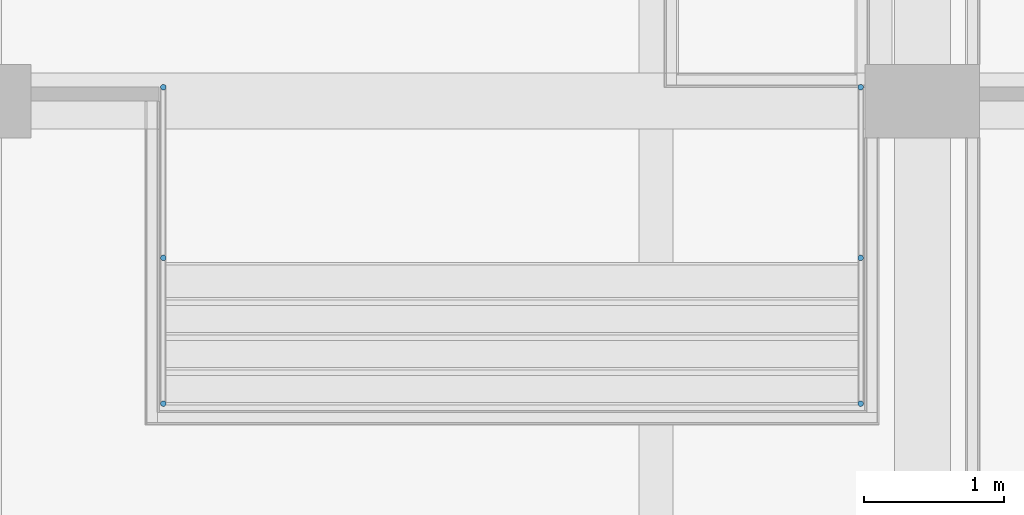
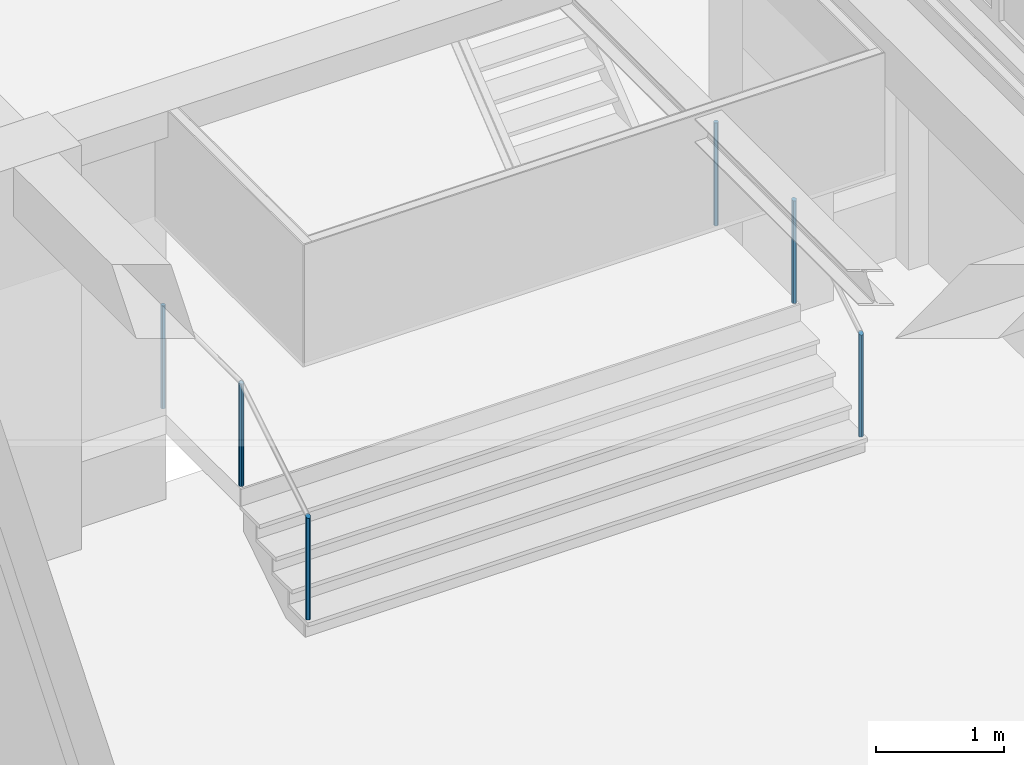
# One storey, part 70 of 135: 6 members, 2 elements without a shape of their own.
"""IFC2X3 building model written with IfcOpenShell, lengths in millimetres."""

from ifc_helpers import new_model, entity, si_unit, converted_unit, derived_unit, money_unit, direction, frame, origin_with_axes, place, context, subcontext, project, spatial, faceted_brep, material, type_object, element, aggregate, save


model = new_model("IFC2X3")

# Units and contexts
model_context = context("Model", 3, precision=0.01, world=origin_with_axes(), true_north=direction((0.0, 1.0)))
body_context = subcontext(model_context, "Body", "Model", "MODEL_VIEW")
ifc_project = project(units=[si_unit("LENGTHUNIT", "METRE", prefix="MILLI"), si_unit("AREAUNIT", "SQUARE_METRE"), si_unit("VOLUMEUNIT", "CUBIC_METRE"), converted_unit("PLANEANGLEUNIT", "DEGREE", entity("IfcPlaneAngleMeasure", 0.0174532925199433), si_unit("PLANEANGLEUNIT", "RADIAN"), dimensions=[0, 0, 0, 0, 0, 0, 0]), money_unit("EUR"), converted_unit("TIMEUNIT", "Year", entity("IfcTimeMeasure", 31557600.0), si_unit("TIMEUNIT", "SECOND"), dimensions=[0, 0, 1, 0, 0, 0, 0]), si_unit("MASSUNIT", "GRAM", prefix="KILO"), si_unit("THERMODYNAMICTEMPERATUREUNIT", "DEGREE_CELSIUS"), si_unit("LUMINOUSINTENSITYUNIT", "LUMEN"), si_unit("ENERGYUNIT", "JOULE", prefix="MEGA"), derived_unit("THERMALCONDUCTANCEUNIT", [(si_unit("POWERUNIT", "WATT"), 1), (si_unit("LENGTHUNIT", "METRE"), -1), (si_unit("THERMODYNAMICTEMPERATUREUNIT", "KELVIN"), -1)]), derived_unit("SPECIFICHEATCAPACITYUNIT", [(si_unit("ENERGYUNIT", "JOULE"), 1), (si_unit("MASSUNIT", "GRAM", prefix="KILO"), -1), (si_unit("THERMODYNAMICTEMPERATUREUNIT", "KELVIN"), -1)]), derived_unit("MASSDENSITYUNIT", [(si_unit("MASSUNIT", "GRAM", prefix="KILO"), 1), (si_unit("VOLUMEUNIT", "CUBIC_METRE"), -1)])], contexts=[model_context])

# Site, building, storey
site_placement = place(None, origin_with_axes())
site = spatial("IfcSite", under=ifc_project, at=site_placement, Name="Site", CompositionType="ELEMENT")
building_placement = place(site_placement, origin_with_axes())
building = spatial("IfcBuilding", under=site, at=building_placement, Name="Naam gebouw", CompositionType="ELEMENT")
storey_placement = place(building_placement, origin_with_axes())
storey = spatial("IfcBuildingStorey", under=building, at=storey_placement, Name="Begane grond N", CompositionType="ELEMENT", Elevation=0.0)

# Railing, members
railing_type = type_object("IfcRailingType", Name="Railing Type", PredefinedType="NOTDEFINED")
railing_1_placement = place(storey_placement, frame((28195.99999999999, 47067.9124162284, 160.0), z_axis=(0.0, 0.0, 1.0), x_axis=(-1.0, 0.0, 0.0)))
railing_1 = element("IfcRailing", 1, at=railing_1_placement, inside=storey, type_object=railing_type, Name="_Reling-x", PredefinedType="NOTDEFINED")
ifc_material = material(Name="Metaal - RVS")
member_type = type_object("IfcMemberType", Name="IfcMember", PredefinedType="POST")
member_1_placement = place(railing_1_placement, frame((30.00000000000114, -49.99999999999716, 0.0), z_axis=(0.0, 0.0, 1.0), x_axis=(-1.0, 0.0, 0.0)))
member_1 = element("IfcMember", 2, at=member_1_placement, type_object=member_type, material=ifc_material, Name="_Hoofdbaluster-x", ObjectType="POST", context=body_context, shape_type="Brep", body=[
    faceted_brep([(0.0, -20.0, 0.0), (0.0, -20.0, 967.6923076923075), (-3.472963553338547, -19.69615506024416, 967.8792891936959), (-3.472963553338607, -19.69615506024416, 0.0), (3.472963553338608, -19.69615506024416, 0.0), (3.472963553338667, -19.69615506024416, 967.8792891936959), (6.840402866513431, -18.79385241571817, 968.4345523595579), (10.00000000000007, -17.32050807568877, 969.341225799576), (12.85575219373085, -15.32088886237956, 970.571760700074), (15.32088886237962, -12.85575219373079, 972.0887678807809), (17.32050807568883, -10.0, 973.8461538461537), (18.79385241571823, -6.84040286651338, 975.7905213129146), (19.69615506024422, -3.4729635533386, 977.8627916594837), (20.00000000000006, 0.0, 979.9999999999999), (19.69615506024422, 3.472963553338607, 982.1372083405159), (18.79385241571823, 6.840402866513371, 984.209478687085), (17.32050807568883, 10.00000000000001, 986.1538461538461), (15.32088886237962, 12.85575219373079, 987.9112321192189), (12.85575219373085, 15.32088886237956, 989.4282392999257), (10.00000000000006, 17.32050807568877, 990.6587742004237), (6.840402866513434, 18.79385241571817, 991.5654476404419), (3.47296355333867, 19.69615506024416, 992.1207108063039), (0.0, 20.0, 992.3076923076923), (-3.472963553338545, 19.69615506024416, 992.1207108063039), (-6.840402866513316, 18.79385241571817, 991.5654476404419), (-9.999999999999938, 17.32050807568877, 990.6587742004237), (-12.85575219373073, 15.32088886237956, 989.4282392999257), (-15.3208888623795, 12.85575219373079, 987.9112321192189), (-17.32050807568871, 9.999999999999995, 986.1538461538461), (-18.79385241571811, 6.840402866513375, 984.209478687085), (-19.6961550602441, 3.472963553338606, 982.1372083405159), (-19.99999999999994, 0.0, 979.9999999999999), (-19.6961550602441, -3.472963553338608, 977.8627916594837), (-18.79385241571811, -6.840402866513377, 975.7905213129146), (-17.32050807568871, -10.0, 973.8461538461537), (-15.3208888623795, -12.85575219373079, 972.0887678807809), (-12.85575219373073, -15.32088886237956, 970.571760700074), (-9.99999999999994, -17.32050807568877, 969.341225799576), (-6.840402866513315, -18.79385241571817, 968.4345523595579), (-6.840402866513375, -18.79385241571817, 0.0), (-9.999999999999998, -17.32050807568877, 0.0), (-12.85575219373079, -15.32088886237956, 0.0), (-15.32088886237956, -12.85575219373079, 0.0), (-17.32050807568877, -10.0, 0.0), (-18.79385241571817, -6.840402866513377, 0.0), (-19.69615506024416, -3.472963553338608, 0.0), (-20.0, 0.0, 0.0), (-19.69615506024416, 3.472963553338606, 0.0), (-18.79385241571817, 6.840402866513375, 0.0), (-17.32050807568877, 9.999999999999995, 0.0), (-15.32088886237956, 12.85575219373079, 0.0), (-12.85575219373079, 15.32088886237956, 0.0), (-9.999999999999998, 17.32050807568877, 0.0), (-6.840402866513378, 18.79385241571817, 0.0), (-3.472963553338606, 19.69615506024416, 0.0), (0.0, 20.0, 0.0), (3.47296355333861, 19.69615506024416, 0.0), (6.840402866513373, 18.79385241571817, 0.0), (10.0, 17.32050807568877, 0.0), (12.85575219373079, 15.32088886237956, 0.0), (15.32088886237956, 12.85575219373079, 0.0), (17.32050807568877, 10.00000000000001, 0.0), (18.79385241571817, 6.840402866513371, 0.0), (19.69615506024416, 3.472963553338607, 0.0), (20.0, 0.0, 0.0), (19.69615506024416, -3.4729635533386, 0.0), (18.79385241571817, -6.84040286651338, 0.0), (17.32050807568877, -10.0, 0.0), (15.32088886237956, -12.85575219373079, 0.0), (12.85575219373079, -15.32088886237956, 0.0), (10.00000000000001, -17.32050807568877, 0.0), (6.840402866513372, -18.79385241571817, 0.0)], [[[0, 1, 2, 3]], [[4, 5, 1, 0]], [[1, 5, 6, 7, 8, 9, 10, 11, 12, 13, 14, 15, 16, 17, 18, 19, 20, 21, 22, 23, 24, 25, 26, 27, 28, 29, 30, 31, 32, 33, 34, 35, 36, 37, 38, 2]], [[3, 2, 38, 39]], [[0, 3, 39, 40, 41, 42, 43, 44, 45, 46, 47, 48, 49, 50, 51, 52, 53, 54, 55, 56, 57, 58, 59, 60, 61, 62, 63, 64, 65, 66, 67, 68, 69, 70, 71, 4]], [[71, 6, 5, 4]], [[70, 7, 6, 71]], [[69, 8, 7, 70]], [[68, 9, 8, 69]], [[67, 10, 9, 68]], [[66, 11, 10, 67]], [[65, 12, 11, 66]], [[64, 13, 12, 65]], [[63, 14, 13, 64]], [[62, 15, 14, 63]], [[61, 16, 15, 62]], [[60, 17, 16, 61]], [[59, 18, 17, 60]], [[58, 19, 18, 59]], [[57, 20, 19, 58]], [[56, 21, 20, 57]], [[55, 22, 21, 56]], [[54, 23, 22, 55]], [[53, 24, 23, 54]], [[52, 25, 24, 53]], [[51, 26, 25, 52]], [[50, 27, 26, 51]], [[49, 28, 27, 50]], [[48, 29, 28, 49]], [[47, 30, 29, 48]], [[46, 31, 30, 47]], [[45, 32, 31, 46]], [[44, 33, 32, 45]], [[43, 34, 33, 44]], [[42, 35, 34, 43]], [[41, 36, 35, 42]], [[40, 37, 36, 41]], [[39, 38, 37, 40]]]),
])
member_2_placement = place(railing_1_placement, frame((30.00000000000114, -1089.999999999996, 640.0), z_axis=(0.0, 0.0, 1.0), x_axis=(-1.0, 0.0, 0.0)))
member_2 = element("IfcMember", 3, at=member_2_placement, type_object=member_type, material=ifc_material, Name="_Hoofdbaluster-x", ObjectType="POST", context=body_context, shape_type="Brep", body=[
    faceted_brep([(0.0, -20.0, 0.0), (0.0, -20.0, 974.3391561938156), (-3.472963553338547, -19.69615506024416, 974.4251571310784), (-3.472963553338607, -19.69615506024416, 0.0), (3.472963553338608, -19.69615506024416, 0.0), (3.472963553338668, -19.69615506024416, 974.4251571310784), (6.840402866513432, -18.79385241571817, 974.6805468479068), (10.00000000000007, -17.32050807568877, 975.0975654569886), (12.85575219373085, -15.32088886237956, 975.663542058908), (15.32088886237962, -12.85575219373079, 976.3612797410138), (17.32050807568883, -10.0, 977.1695780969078), (18.79385241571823, -6.84040286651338, 978.0638773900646), (19.69615506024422, -3.4729635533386, 979.0170047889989), (20.00000000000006, 0.0, 980.0), (19.69615506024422, 3.472963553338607, 980.982995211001), (18.79385241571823, 6.840402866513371, 981.9361226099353), (17.32050807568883, 10.00000000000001, 982.8304219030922), (15.32088886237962, 12.85575219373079, 983.6387202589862), (12.85575219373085, 15.32088886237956, 984.336457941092), (10.00000000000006, 17.32050807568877, 984.9024345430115), (6.840402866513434, 18.79385241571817, 985.3194531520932), (3.47296355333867, 19.69615506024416, 985.5748428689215), (0.0, 20.0, 985.6608438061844), (-3.472963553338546, 19.69615506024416, 985.5748428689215), (-6.840402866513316, 18.79385241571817, 985.3194531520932), (-9.999999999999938, 17.32050807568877, 984.9024345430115), (-12.85575219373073, 15.32088886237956, 984.336457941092), (-15.3208888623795, 12.85575219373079, 983.6387202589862), (-17.32050807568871, 9.999999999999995, 982.8304219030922), (-18.79385241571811, 6.840402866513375, 981.9361226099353), (-19.6961550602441, 3.472963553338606, 980.982995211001), (-19.99999999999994, 0.0, 980.0), (-19.6961550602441, -3.472963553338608, 979.0170047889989), (-18.79385241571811, -6.840402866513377, 978.0638773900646), (-17.32050807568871, -10.0, 977.1695780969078), (-15.3208888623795, -12.85575219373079, 976.3612797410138), (-12.85575219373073, -15.32088886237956, 975.663542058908), (-9.99999999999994, -17.32050807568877, 975.0975654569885), (-6.840402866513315, -18.79385241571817, 974.6805468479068), (-6.840402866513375, -18.79385241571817, 0.0), (-9.999999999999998, -17.32050807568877, 0.0), (-12.85575219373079, -15.32088886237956, 0.0), (-15.32088886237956, -12.85575219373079, 0.0), (-17.32050807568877, -10.0, 0.0), (-18.79385241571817, -6.840402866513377, 0.0), (-19.69615506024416, -3.472963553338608, 0.0), (-20.0, 0.0, 0.0), (-19.69615506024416, 3.472963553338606, 0.0), (-18.79385241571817, 6.840402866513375, 0.0), (-17.32050807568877, 9.999999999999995, 0.0), (-15.32088886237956, 12.85575219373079, 0.0), (-12.85575219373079, 15.32088886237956, 0.0), (-9.999999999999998, 17.32050807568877, 0.0), (-6.840402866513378, 18.79385241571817, 0.0), (-3.472963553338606, 19.69615506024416, 0.0), (0.0, 20.0, 0.0), (3.47296355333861, 19.69615506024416, 0.0), (6.840402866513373, 18.79385241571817, 0.0), (10.0, 17.32050807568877, 0.0), (12.85575219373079, 15.32088886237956, 0.0), (15.32088886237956, 12.85575219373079, 0.0), (17.32050807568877, 10.00000000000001, 0.0), (18.79385241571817, 6.840402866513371, 0.0), (19.69615506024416, 3.472963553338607, 0.0), (20.0, 0.0, 0.0), (19.69615506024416, -3.4729635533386, 0.0), (18.79385241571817, -6.84040286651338, 0.0), (17.32050807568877, -10.0, 0.0), (15.32088886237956, -12.85575219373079, 0.0), (12.85575219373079, -15.32088886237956, 0.0), (10.00000000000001, -17.32050807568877, 0.0), (6.840402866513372, -18.79385241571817, 0.0)], [[[0, 1, 2, 3]], [[4, 5, 1, 0]], [[1, 5, 6, 7, 8, 9, 10, 11, 12, 13, 14, 15, 16, 17, 18, 19, 20, 21, 22, 23, 24, 25, 26, 27, 28, 29, 30, 31, 32, 33, 34, 35, 36, 37, 38, 2]], [[3, 2, 38, 39]], [[0, 3, 39, 40, 41, 42, 43, 44, 45, 46, 47, 48, 49, 50, 51, 52, 53, 54, 55, 56, 57, 58, 59, 60, 61, 62, 63, 64, 65, 66, 67, 68, 69, 70, 71, 4]], [[71, 6, 5, 4]], [[70, 7, 6, 71]], [[69, 8, 7, 70]], [[68, 9, 8, 69]], [[67, 10, 9, 68]], [[66, 11, 10, 67]], [[65, 12, 11, 66]], [[64, 13, 12, 65]], [[63, 14, 13, 64]], [[62, 15, 14, 63]], [[61, 16, 15, 62]], [[60, 17, 16, 61]], [[59, 18, 17, 60]], [[58, 19, 18, 59]], [[57, 20, 19, 58]], [[56, 21, 20, 57]], [[55, 22, 21, 56]], [[54, 23, 22, 55]], [[53, 24, 23, 54]], [[52, 25, 24, 53]], [[51, 26, 25, 52]], [[50, 27, 26, 51]], [[49, 28, 27, 50]], [[48, 29, 28, 49]], [[47, 30, 29, 48]], [[46, 31, 30, 47]], [[45, 32, 31, 46]], [[44, 33, 32, 45]], [[43, 34, 33, 44]], [[42, 35, 34, 43]], [[41, 36, 35, 42]], [[40, 37, 36, 41]], [[39, 38, 37, 40]]]),
])
member_3_placement = place(railing_1_placement, frame((30.00000000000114, -2308.000005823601, 640.0), z_axis=(0.0, 0.0, 1.0), x_axis=(-1.0, 0.0, 0.0)))
member_3 = element("IfcMember", 4, at=member_3_placement, type_object=member_type, material=ifc_material, Name="_Hoofdbaluster-x", ObjectType="POST", context=body_context, shape_type="Brep", body=[
    faceted_brep([(0.0, -20.0, 0.0), (0.0, -20.0, 980.0), (-3.472963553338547, -19.69615506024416, 980.0), (-3.472963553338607, -19.69615506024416, 0.0), (3.472963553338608, -19.69615506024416, 0.0), (3.472963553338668, -19.69615506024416, 980.0), (6.840402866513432, -18.79385241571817, 980.0), (10.00000000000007, -17.32050807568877, 980.0), (12.85575219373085, -15.32088886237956, 980.0), (15.32088886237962, -12.85575219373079, 980.0), (17.32050807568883, -10.0, 980.0), (18.79385241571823, -6.84040286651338, 980.0), (19.69615506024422, -3.4729635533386, 980.0), (20.00000000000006, 0.0, 980.0), (19.69615506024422, 3.472963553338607, 980.0), (18.79385241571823, 6.840402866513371, 980.0), (17.32050807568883, 10.00000000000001, 980.0), (15.32088886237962, 12.85575219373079, 980.0), (12.85575219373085, 15.32088886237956, 980.0), (10.00000000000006, 17.32050807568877, 980.0), (6.840402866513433, 18.79385241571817, 980.0), (3.47296355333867, 19.69615506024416, 980.0), (0.0, 20.0, 980.0), (-3.472963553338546, 19.69615506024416, 980.0), (-6.840402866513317, 18.79385241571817, 980.0), (-9.999999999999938, 17.32050807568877, 980.0), (-12.85575219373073, 15.32088886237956, 980.0), (-15.3208888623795, 12.85575219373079, 980.0), (-17.32050807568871, 9.999999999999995, 980.0), (-18.79385241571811, 6.840402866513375, 980.0), (-19.6961550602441, 3.472963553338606, 980.0), (-19.99999999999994, 0.0, 980.0), (-19.6961550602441, -3.472963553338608, 980.0), (-18.79385241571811, -6.840402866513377, 980.0), (-17.32050807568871, -10.0, 980.0), (-15.3208888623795, -12.85575219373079, 980.0), (-12.85575219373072, -15.32088886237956, 980.0), (-9.999999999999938, -17.32050807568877, 980.0), (-6.840402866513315, -18.79385241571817, 980.0), (-6.840402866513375, -18.79385241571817, 0.0), (-9.999999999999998, -17.32050807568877, 0.0), (-12.85575219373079, -15.32088886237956, 0.0), (-15.32088886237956, -12.85575219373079, 0.0), (-17.32050807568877, -10.0, 0.0), (-18.79385241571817, -6.840402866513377, 0.0), (-19.69615506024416, -3.472963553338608, 0.0), (-20.0, 0.0, 0.0), (-19.69615506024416, 3.472963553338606, 0.0), (-18.79385241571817, 6.840402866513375, 0.0), (-17.32050807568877, 9.999999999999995, 0.0), (-15.32088886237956, 12.85575219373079, 0.0), (-12.85575219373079, 15.32088886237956, 0.0), (-9.999999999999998, 17.32050807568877, 0.0), (-6.840402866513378, 18.79385241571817, 0.0), (-3.472963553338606, 19.69615506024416, 0.0), (0.0, 20.0, 0.0), (3.47296355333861, 19.69615506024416, 0.0), (6.840402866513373, 18.79385241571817, 0.0), (10.0, 17.32050807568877, 0.0), (12.85575219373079, 15.32088886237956, 0.0), (15.32088886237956, 12.85575219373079, 0.0), (17.32050807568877, 10.00000000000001, 0.0), (18.79385241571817, 6.840402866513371, 0.0), (19.69615506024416, 3.472963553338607, 0.0), (20.0, 0.0, 0.0), (19.69615506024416, -3.4729635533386, 0.0), (18.79385241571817, -6.84040286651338, 0.0), (17.32050807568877, -10.0, 0.0), (15.32088886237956, -12.85575219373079, 0.0), (12.85575219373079, -15.32088886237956, 0.0), (10.00000000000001, -17.32050807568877, 0.0), (6.840402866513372, -18.79385241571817, 0.0)], [[[0, 1, 2, 3]], [[4, 5, 1, 0]], [[1, 5, 6, 7, 8, 9, 10, 11, 12, 13, 14, 15, 16, 17, 18, 19, 20, 21, 22, 23, 24, 25, 26, 27, 28, 29, 30, 31, 32, 33, 34, 35, 36, 37, 38, 2]], [[3, 2, 38, 39]], [[0, 3, 39, 40, 41, 42, 43, 44, 45, 46, 47, 48, 49, 50, 51, 52, 53, 54, 55, 56, 57, 58, 59, 60, 61, 62, 63, 64, 65, 66, 67, 68, 69, 70, 71, 4]], [[71, 6, 5, 4]], [[70, 7, 6, 71]], [[69, 8, 7, 70]], [[68, 9, 8, 69]], [[67, 10, 9, 68]], [[66, 11, 10, 67]], [[65, 12, 11, 66]], [[64, 13, 12, 65]], [[63, 14, 13, 64]], [[62, 15, 14, 63]], [[61, 16, 15, 62]], [[60, 17, 16, 61]], [[59, 18, 17, 60]], [[58, 19, 18, 59]], [[57, 20, 19, 58]], [[56, 21, 20, 57]], [[55, 22, 21, 56]], [[54, 23, 22, 55]], [[53, 24, 23, 54]], [[52, 25, 24, 53]], [[51, 26, 25, 52]], [[50, 27, 26, 51]], [[49, 28, 27, 50]], [[48, 29, 28, 49]], [[47, 30, 29, 48]], [[46, 31, 30, 47]], [[45, 32, 31, 46]], [[44, 33, 32, 45]], [[43, 34, 33, 44]], [[42, 35, 34, 43]], [[41, 36, 35, 42]], [[40, 37, 36, 41]], [[39, 38, 37, 40]]]),
])
aggregate(railing_1, [member_1, member_2, member_3])

railing_2_placement = place(storey_placement, frame((23160.00002619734, 47067.9124162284, 160.0), z_axis=(0.0, 0.0, 1.0), x_axis=(1.0, 0.0, 0.0)))
railing_2 = element("IfcRailing", 5, at=railing_2_placement, inside=storey, type_object=railing_type, Name="_Reling-x", PredefinedType="NOTDEFINED")
member_4_placement = place(railing_2_placement, frame((30.00000000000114, 1089.999999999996, 640.0), z_axis=(0.0, 0.0, 1.0), x_axis=(1.0, 0.0, 0.0)))
member_4 = element("IfcMember", 6, at=member_4_placement, type_object=member_type, material=ifc_material, Name="_Hoofdbaluster-x", ObjectType="POST", context=body_context, shape_type="Brep", body=[
    faceted_brep([(0.0, -20.0, 0.0), (3.472963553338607, -19.69615506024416, 0.0), (3.472963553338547, -19.69615506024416, 974.4251571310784), (0.0, -20.0, 974.3391561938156), (-3.472963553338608, -19.69615506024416, 0.0), (-6.840402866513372, -18.79385241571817, 0.0), (-10.00000000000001, -17.32050807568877, 0.0), (-12.85575219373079, -15.32088886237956, 0.0), (-15.32088886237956, -12.85575219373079, 0.0), (-17.32050807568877, -10.0, 0.0), (-18.79385241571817, -6.84040286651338, 0.0), (-19.69615506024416, -3.4729635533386, 0.0), (-20.0, 0.0, 0.0), (-19.69615506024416, 3.472963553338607, 0.0), (-18.79385241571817, 6.840402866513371, 0.0), (-17.32050807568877, 10.00000000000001, 0.0), (-15.32088886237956, 12.85575219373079, 0.0), (-12.85575219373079, 15.32088886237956, 0.0), (-10.0, 17.32050807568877, 0.0), (-6.840402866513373, 18.79385241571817, 0.0), (-3.47296355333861, 19.69615506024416, 0.0), (0.0, 20.0, 0.0), (3.472963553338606, 19.69615506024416, 0.0), (6.840402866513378, 18.79385241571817, 0.0), (9.999999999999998, 17.32050807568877, 0.0), (12.85575219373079, 15.32088886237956, 0.0), (15.32088886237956, 12.85575219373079, 0.0), (17.32050807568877, 9.999999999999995, 0.0), (18.79385241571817, 6.840402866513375, 0.0), (19.69615506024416, 3.472963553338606, 0.0), (20.0, 0.0, 0.0), (19.69615506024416, -3.472963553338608, 0.0), (18.79385241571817, -6.840402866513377, 0.0), (17.32050807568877, -10.0, 0.0), (15.32088886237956, -12.85575219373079, 0.0), (12.85575219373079, -15.32088886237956, 0.0), (9.999999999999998, -17.32050807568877, 0.0), (6.840402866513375, -18.79385241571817, 0.0), (6.840402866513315, -18.79385241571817, 974.6805468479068), (9.99999999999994, -17.32050807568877, 975.0975654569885), (12.85575219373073, -15.32088886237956, 975.663542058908), (15.3208888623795, -12.85575219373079, 976.3612797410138), (17.32050807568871, -10.0, 977.1695780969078), (18.79385241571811, -6.840402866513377, 978.0638773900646), (19.6961550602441, -3.472963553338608, 979.0170047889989), (19.99999999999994, 0.0, 980.0), (19.6961550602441, 3.472963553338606, 980.982995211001), (18.79385241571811, 6.840402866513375, 981.9361226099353), (17.32050807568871, 9.999999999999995, 982.8304219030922), (15.3208888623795, 12.85575219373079, 983.6387202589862), (12.85575219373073, 15.32088886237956, 984.336457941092), (9.999999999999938, 17.32050807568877, 984.9024345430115), (6.840402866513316, 18.79385241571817, 985.3194531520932), (3.472963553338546, 19.69615506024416, 985.5748428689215), (0.0, 20.0, 985.6608438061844), (-3.47296355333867, 19.69615506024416, 985.5748428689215), (-6.840402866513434, 18.79385241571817, 985.3194531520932), (-10.00000000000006, 17.32050807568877, 984.9024345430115), (-12.85575219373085, 15.32088886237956, 984.336457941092), (-15.32088886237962, 12.85575219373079, 983.6387202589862), (-17.32050807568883, 10.00000000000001, 982.8304219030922), (-18.79385241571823, 6.840402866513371, 981.9361226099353), (-19.69615506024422, 3.472963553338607, 980.982995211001), (-20.00000000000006, 0.0, 980.0), (-19.69615506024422, -3.4729635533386, 979.0170047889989), (-18.79385241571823, -6.84040286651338, 978.0638773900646), (-17.32050807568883, -10.0, 977.1695780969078), (-15.32088886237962, -12.85575219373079, 976.3612797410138), (-12.85575219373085, -15.32088886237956, 975.663542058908), (-10.00000000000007, -17.32050807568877, 975.0975654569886), (-6.840402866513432, -18.79385241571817, 974.6805468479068), (-3.472963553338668, -19.69615506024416, 974.4251571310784)], [[[0, 1, 2, 3]], [[0, 4, 5, 6, 7, 8, 9, 10, 11, 12, 13, 14, 15, 16, 17, 18, 19, 20, 21, 22, 23, 24, 25, 26, 27, 28, 29, 30, 31, 32, 33, 34, 35, 36, 37, 1]], [[1, 37, 38, 2]], [[3, 2, 38, 39, 40, 41, 42, 43, 44, 45, 46, 47, 48, 49, 50, 51, 52, 53, 54, 55, 56, 57, 58, 59, 60, 61, 62, 63, 64, 65, 66, 67, 68, 69, 70, 71]], [[4, 0, 3, 71]], [[5, 4, 71, 70]], [[6, 5, 70, 69]], [[7, 6, 69, 68]], [[8, 7, 68, 67]], [[9, 8, 67, 66]], [[10, 9, 66, 65]], [[11, 10, 65, 64]], [[12, 11, 64, 63]], [[13, 12, 63, 62]], [[14, 13, 62, 61]], [[15, 14, 61, 60]], [[16, 15, 60, 59]], [[17, 16, 59, 58]], [[18, 17, 58, 57]], [[19, 18, 57, 56]], [[20, 19, 56, 55]], [[21, 20, 55, 54]], [[22, 21, 54, 53]], [[23, 22, 53, 52]], [[24, 23, 52, 51]], [[25, 24, 51, 50]], [[26, 25, 50, 49]], [[27, 26, 49, 48]], [[28, 27, 48, 47]], [[29, 28, 47, 46]], [[30, 29, 46, 45]], [[31, 30, 45, 44]], [[32, 31, 44, 43]], [[33, 32, 43, 42]], [[34, 33, 42, 41]], [[35, 34, 41, 40]], [[36, 35, 40, 39]], [[37, 36, 39, 38]]]),
])
member_5_placement = place(railing_2_placement, frame((30.00000000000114, 2308.000005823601, 640.0), z_axis=(0.0, 0.0, 1.0), x_axis=(1.0, 0.0, 0.0)))
member_5 = element("IfcMember", 7, at=member_5_placement, type_object=member_type, material=ifc_material, Name="_Hoofdbaluster-x", ObjectType="POST", context=body_context, shape_type="Brep", body=[
    faceted_brep([(0.0, -20.0, 0.0), (3.472963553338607, -19.69615506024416, 0.0), (3.472963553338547, -19.69615506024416, 980.0), (0.0, -20.0, 980.0), (-3.472963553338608, -19.69615506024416, 0.0), (-6.840402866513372, -18.79385241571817, 0.0), (-10.00000000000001, -17.32050807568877, 0.0), (-12.85575219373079, -15.32088886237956, 0.0), (-15.32088886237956, -12.85575219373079, 0.0), (-17.32050807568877, -10.0, 0.0), (-18.79385241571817, -6.84040286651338, 0.0), (-19.69615506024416, -3.4729635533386, 0.0), (-20.0, 0.0, 0.0), (-19.69615506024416, 3.472963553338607, 0.0), (-18.79385241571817, 6.840402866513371, 0.0), (-17.32050807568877, 10.00000000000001, 0.0), (-15.32088886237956, 12.85575219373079, 0.0), (-12.85575219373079, 15.32088886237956, 0.0), (-10.0, 17.32050807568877, 0.0), (-6.840402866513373, 18.79385241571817, 0.0), (-3.47296355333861, 19.69615506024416, 0.0), (0.0, 20.0, 0.0), (3.472963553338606, 19.69615506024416, 0.0), (6.840402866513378, 18.79385241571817, 0.0), (9.999999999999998, 17.32050807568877, 0.0), (12.85575219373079, 15.32088886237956, 0.0), (15.32088886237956, 12.85575219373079, 0.0), (17.32050807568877, 9.999999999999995, 0.0), (18.79385241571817, 6.840402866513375, 0.0), (19.69615506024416, 3.472963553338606, 0.0), (20.0, 0.0, 0.0), (19.69615506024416, -3.472963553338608, 0.0), (18.79385241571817, -6.840402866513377, 0.0), (17.32050807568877, -10.0, 0.0), (15.32088886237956, -12.85575219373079, 0.0), (12.85575219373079, -15.32088886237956, 0.0), (9.999999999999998, -17.32050807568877, 0.0), (6.840402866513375, -18.79385241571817, 0.0), (6.840402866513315, -18.79385241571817, 980.0), (9.999999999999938, -17.32050807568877, 980.0), (12.85575219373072, -15.32088886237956, 980.0), (15.3208888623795, -12.85575219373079, 980.0), (17.32050807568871, -10.0, 980.0), (18.79385241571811, -6.840402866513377, 980.0), (19.6961550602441, -3.472963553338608, 980.0), (19.99999999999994, 0.0, 980.0), (19.6961550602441, 3.472963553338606, 980.0), (18.79385241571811, 6.840402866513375, 980.0), (17.32050807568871, 9.999999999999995, 980.0), (15.3208888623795, 12.85575219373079, 980.0), (12.85575219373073, 15.32088886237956, 980.0), (9.999999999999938, 17.32050807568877, 980.0), (6.840402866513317, 18.79385241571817, 980.0), (3.472963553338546, 19.69615506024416, 980.0), (0.0, 20.0, 980.0), (-3.47296355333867, 19.69615506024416, 980.0), (-6.840402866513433, 18.79385241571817, 980.0), (-10.00000000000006, 17.32050807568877, 980.0), (-12.85575219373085, 15.32088886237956, 980.0), (-15.32088886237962, 12.85575219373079, 980.0), (-17.32050807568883, 10.00000000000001, 980.0), (-18.79385241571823, 6.840402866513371, 980.0), (-19.69615506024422, 3.472963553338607, 980.0), (-20.00000000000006, 0.0, 980.0), (-19.69615506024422, -3.4729635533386, 980.0), (-18.79385241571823, -6.84040286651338, 980.0), (-17.32050807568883, -10.0, 980.0), (-15.32088886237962, -12.85575219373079, 980.0), (-12.85575219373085, -15.32088886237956, 980.0), (-10.00000000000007, -17.32050807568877, 980.0), (-6.840402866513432, -18.79385241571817, 980.0), (-3.472963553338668, -19.69615506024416, 980.0)], [[[0, 1, 2, 3]], [[0, 4, 5, 6, 7, 8, 9, 10, 11, 12, 13, 14, 15, 16, 17, 18, 19, 20, 21, 22, 23, 24, 25, 26, 27, 28, 29, 30, 31, 32, 33, 34, 35, 36, 37, 1]], [[1, 37, 38, 2]], [[3, 2, 38, 39, 40, 41, 42, 43, 44, 45, 46, 47, 48, 49, 50, 51, 52, 53, 54, 55, 56, 57, 58, 59, 60, 61, 62, 63, 64, 65, 66, 67, 68, 69, 70, 71]], [[4, 0, 3, 71]], [[5, 4, 71, 70]], [[6, 5, 70, 69]], [[7, 6, 69, 68]], [[8, 7, 68, 67]], [[9, 8, 67, 66]], [[10, 9, 66, 65]], [[11, 10, 65, 64]], [[12, 11, 64, 63]], [[13, 12, 63, 62]], [[14, 13, 62, 61]], [[15, 14, 61, 60]], [[16, 15, 60, 59]], [[17, 16, 59, 58]], [[18, 17, 58, 57]], [[19, 18, 57, 56]], [[20, 19, 56, 55]], [[21, 20, 55, 54]], [[22, 21, 54, 53]], [[23, 22, 53, 52]], [[24, 23, 52, 51]], [[25, 24, 51, 50]], [[26, 25, 50, 49]], [[27, 26, 49, 48]], [[28, 27, 48, 47]], [[29, 28, 47, 46]], [[30, 29, 46, 45]], [[31, 30, 45, 44]], [[32, 31, 44, 43]], [[33, 32, 43, 42]], [[34, 33, 42, 41]], [[35, 34, 41, 40]], [[36, 35, 40, 39]], [[37, 36, 39, 38]]]),
])
member_6_placement = place(railing_2_placement, frame((30.00000000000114, 49.99999999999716, 0.0), z_axis=(0.0, 0.0, 1.0), x_axis=(1.0, 0.0, 0.0)))
member_6 = element("IfcMember", 8, at=member_6_placement, type_object=member_type, material=ifc_material, Name="_Hoofdbaluster-x", ObjectType="POST", context=body_context, shape_type="Brep", body=[
    faceted_brep([(0.0, -20.0, 0.0), (3.472963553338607, -19.69615506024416, 0.0), (3.472963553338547, -19.69615506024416, 967.8792891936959), (0.0, -20.0, 967.6923076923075), (-3.472963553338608, -19.69615506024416, 0.0), (-6.840402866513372, -18.79385241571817, 0.0), (-10.00000000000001, -17.32050807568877, 0.0), (-12.85575219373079, -15.32088886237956, 0.0), (-15.32088886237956, -12.85575219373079, 0.0), (-17.32050807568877, -10.0, 0.0), (-18.79385241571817, -6.84040286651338, 0.0), (-19.69615506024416, -3.4729635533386, 0.0), (-20.0, 0.0, 0.0), (-19.69615506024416, 3.472963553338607, 0.0), (-18.79385241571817, 6.840402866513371, 0.0), (-17.32050807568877, 10.00000000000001, 0.0), (-15.32088886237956, 12.85575219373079, 0.0), (-12.85575219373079, 15.32088886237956, 0.0), (-10.0, 17.32050807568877, 0.0), (-6.840402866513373, 18.79385241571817, 0.0), (-3.47296355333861, 19.69615506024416, 0.0), (0.0, 20.0, 0.0), (3.472963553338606, 19.69615506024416, 0.0), (6.840402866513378, 18.79385241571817, 0.0), (9.999999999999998, 17.32050807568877, 0.0), (12.85575219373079, 15.32088886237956, 0.0), (15.32088886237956, 12.85575219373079, 0.0), (17.32050807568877, 9.999999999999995, 0.0), (18.79385241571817, 6.840402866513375, 0.0), (19.69615506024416, 3.472963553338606, 0.0), (20.0, 0.0, 0.0), (19.69615506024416, -3.472963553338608, 0.0), (18.79385241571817, -6.840402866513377, 0.0), (17.32050807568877, -10.0, 0.0), (15.32088886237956, -12.85575219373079, 0.0), (12.85575219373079, -15.32088886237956, 0.0), (9.999999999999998, -17.32050807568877, 0.0), (6.840402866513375, -18.79385241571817, 0.0), (6.840402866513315, -18.79385241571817, 968.4345523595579), (9.99999999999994, -17.32050807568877, 969.341225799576), (12.85575219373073, -15.32088886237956, 970.571760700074), (15.3208888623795, -12.85575219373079, 972.0887678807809), (17.32050807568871, -10.0, 973.8461538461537), (18.79385241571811, -6.840402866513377, 975.7905213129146), (19.6961550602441, -3.472963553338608, 977.8627916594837), (19.99999999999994, 0.0, 979.9999999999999), (19.6961550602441, 3.472963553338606, 982.1372083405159), (18.79385241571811, 6.840402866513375, 984.209478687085), (17.32050807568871, 9.999999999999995, 986.1538461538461), (15.3208888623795, 12.85575219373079, 987.9112321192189), (12.85575219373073, 15.32088886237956, 989.4282392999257), (9.999999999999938, 17.32050807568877, 990.6587742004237), (6.840402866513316, 18.79385241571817, 991.5654476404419), (3.472963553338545, 19.69615506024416, 992.1207108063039), (0.0, 20.0, 992.3076923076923), (-3.47296355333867, 19.69615506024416, 992.1207108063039), (-6.840402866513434, 18.79385241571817, 991.5654476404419), (-10.00000000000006, 17.32050807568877, 990.6587742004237), (-12.85575219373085, 15.32088886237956, 989.4282392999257), (-15.32088886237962, 12.85575219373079, 987.9112321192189), (-17.32050807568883, 10.00000000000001, 986.1538461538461), (-18.79385241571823, 6.840402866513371, 984.209478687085), (-19.69615506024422, 3.472963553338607, 982.1372083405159), (-20.00000000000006, 0.0, 979.9999999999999), (-19.69615506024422, -3.4729635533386, 977.8627916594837), (-18.79385241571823, -6.84040286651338, 975.7905213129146), (-17.32050807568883, -10.0, 973.8461538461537), (-15.32088886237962, -12.85575219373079, 972.0887678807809), (-12.85575219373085, -15.32088886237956, 970.571760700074), (-10.00000000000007, -17.32050807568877, 969.341225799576), (-6.840402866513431, -18.79385241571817, 968.4345523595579), (-3.472963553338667, -19.69615506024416, 967.8792891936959)], [[[0, 1, 2, 3]], [[0, 4, 5, 6, 7, 8, 9, 10, 11, 12, 13, 14, 15, 16, 17, 18, 19, 20, 21, 22, 23, 24, 25, 26, 27, 28, 29, 30, 31, 32, 33, 34, 35, 36, 37, 1]], [[1, 37, 38, 2]], [[3, 2, 38, 39, 40, 41, 42, 43, 44, 45, 46, 47, 48, 49, 50, 51, 52, 53, 54, 55, 56, 57, 58, 59, 60, 61, 62, 63, 64, 65, 66, 67, 68, 69, 70, 71]], [[4, 0, 3, 71]], [[5, 4, 71, 70]], [[6, 5, 70, 69]], [[7, 6, 69, 68]], [[8, 7, 68, 67]], [[9, 8, 67, 66]], [[10, 9, 66, 65]], [[11, 10, 65, 64]], [[12, 11, 64, 63]], [[13, 12, 63, 62]], [[14, 13, 62, 61]], [[15, 14, 61, 60]], [[16, 15, 60, 59]], [[17, 16, 59, 58]], [[18, 17, 58, 57]], [[19, 18, 57, 56]], [[20, 19, 56, 55]], [[21, 20, 55, 54]], [[22, 21, 54, 53]], [[23, 22, 53, 52]], [[24, 23, 52, 51]], [[25, 24, 51, 50]], [[26, 25, 50, 49]], [[27, 26, 49, 48]], [[28, 27, 48, 47]], [[29, 28, 47, 46]], [[30, 29, 46, 45]], [[31, 30, 45, 44]], [[32, 31, 44, 43]], [[33, 32, 43, 42]], [[34, 33, 42, 41]], [[35, 34, 41, 40]], [[36, 35, 40, 39]], [[37, 36, 39, 38]]]),
])
aggregate(railing_2, [member_4, member_5, member_6])

save(model, "model.ifc")
